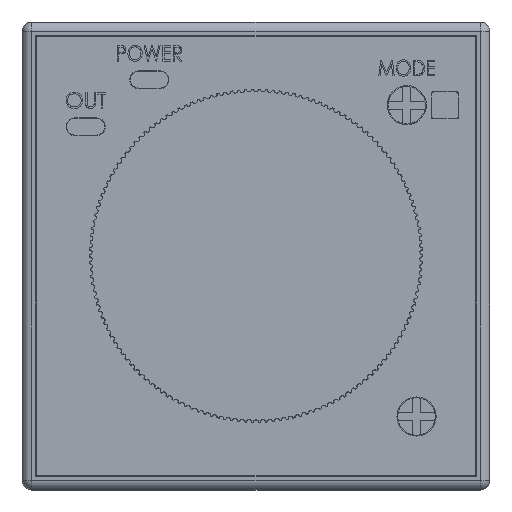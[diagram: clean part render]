
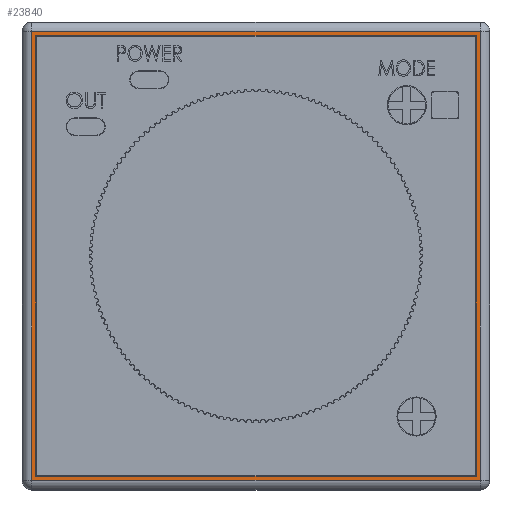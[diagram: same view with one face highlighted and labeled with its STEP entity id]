
A CAD part, top view. The second image highlights one B-rep face of the part: STEP entity #23840.
In plain terms, the highlighted planar face has unit normal (0, 0, 1).
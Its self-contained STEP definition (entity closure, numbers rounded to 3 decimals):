
#1700 = ORIENTED_EDGE ( 'NONE', *, *, #20468, .T. ) ;
#1701 = ORIENTED_EDGE ( 'NONE', *, *, #20469, .T. ) ;
#1702 = ORIENTED_EDGE ( 'NONE', *, *, #20467, .T. ) ;
#1703 = ORIENTED_EDGE ( 'NONE', *, *, #20471, .T. ) ;
#1704 = ORIENTED_EDGE ( 'NONE', *, *, #20472, .F. ) ;
#1705 = ORIENTED_EDGE ( 'NONE', *, *, #20473, .F. ) ;
#1706 = ORIENTED_EDGE ( 'NONE', *, *, #20470, .F. ) ;
#1707 = ORIENTED_EDGE ( 'NONE', *, *, #20474, .F. ) ;
#10503 = VECTOR ( 'NONE', #25992, 1000. ) ;
#10509 = VECTOR ( 'NONE', #25956, 1000. ) ;
#10514 = VECTOR ( 'NONE', #25980, 1000. ) ;
#10518 = VECTOR ( 'NONE', #25986, 1000. ) ;
#10525 = VECTOR ( 'NONE', #25974, 1000. ) ;
#10528 = VECTOR ( 'NONE', #25998, 1000. ) ;
#10529 = VECTOR ( 'NONE', #25962, 1000. ) ;
#10531 = VECTOR ( 'NONE', #25968, 1000. ) ;
#20467 = EDGE_CURVE ( 'NONE', #21536, #21535, #25952, .T. ) ;
#20468 = EDGE_CURVE ( 'NONE', #21537, #21536, #25958, .T. ) ;
#20469 = EDGE_CURVE ( 'NONE', #21535, #21534, #25964, .T. ) ;
#20470 = EDGE_CURVE ( 'NONE', #21531, #21533, #25970, .T. ) ;
#20471 = EDGE_CURVE ( 'NONE', #21534, #21537, #25976, .T. ) ;
#20472 = EDGE_CURVE ( 'NONE', #21533, #21532, #25982, .T. ) ;
#20473 = EDGE_CURVE ( 'NONE', #21530, #21531, #25988, .T. ) ;
#20474 = EDGE_CURVE ( 'NONE', #21532, #21530, #25994, .T. ) ;
#21530 = VERTEX_POINT ( 'NONE', #37093 ) ;
#21531 = VERTEX_POINT ( 'NONE', #37094 ) ;
#21532 = VERTEX_POINT ( 'NONE', #37095 ) ;
#21533 = VERTEX_POINT ( 'NONE', #37096 ) ;
#21534 = VERTEX_POINT ( 'NONE', #37097 ) ;
#21535 = VERTEX_POINT ( 'NONE', #37098 ) ;
#21536 = VERTEX_POINT ( 'NONE', #37099 ) ;
#21537 = VERTEX_POINT ( 'NONE', #37100 ) ;
#23840 = ADVANCED_FACE ( 'NONE', ( #54891, #54894 ), #26717, .F. ) ;
#25952 = LINE ( 'NONE', #25954, #10509 ) ;
#25954 = CARTESIAN_POINT ( 'NONE',  ( 0., -22.9, 5.4 ) ) ;
#25956 = DIRECTION ( 'NONE',  ( 1., 0., 0. ) ) ;
#25958 = LINE ( 'NONE', #25960, #10529 ) ;
#25960 = CARTESIAN_POINT ( 'NONE',  ( -22.9, 0., 5.4 ) ) ;
#25962 = DIRECTION ( 'NONE',  ( 0., -1., 0. ) ) ;
#25964 = LINE ( 'NONE', #25966, #10531 ) ;
#25966 = CARTESIAN_POINT ( 'NONE',  ( 22.9, 0., 5.4 ) ) ;
#25968 = DIRECTION ( 'NONE',  ( 0., 1., 0. ) ) ;
#25970 = LINE ( 'NONE', #25972, #10525 ) ;
#25972 = CARTESIAN_POINT ( 'NONE',  ( -22.5, -22.5, 5.4 ) ) ;
#25974 = DIRECTION ( 'NONE',  ( 1., 0., 0. ) ) ;
#25976 = LINE ( 'NONE', #25978, #10514 ) ;
#25978 = CARTESIAN_POINT ( 'NONE',  ( 0., 22.9, 5.4 ) ) ;
#25980 = DIRECTION ( 'NONE',  ( -1., 0., 0. ) ) ;
#25982 = LINE ( 'NONE', #25984, #10518 ) ;
#25984 = CARTESIAN_POINT ( 'NONE',  ( 22.5, -22.5, 5.4 ) ) ;
#25986 = DIRECTION ( 'NONE',  ( 0., 1., 0. ) ) ;
#25988 = LINE ( 'NONE', #25990, #10503 ) ;
#25990 = CARTESIAN_POINT ( 'NONE',  ( -22.5, 22.5, 5.4 ) ) ;
#25992 = DIRECTION ( 'NONE',  ( 0., -1., 0. ) ) ;
#25994 = LINE ( 'NONE', #25996, #10528 ) ;
#25996 = CARTESIAN_POINT ( 'NONE',  ( 22.5, 22.5, 5.4 ) ) ;
#25998 = DIRECTION ( 'NONE',  ( -1., 0., 0. ) ) ;
#26717 = PLANE ( 'NONE',  #54897 ) ;
#26718 = CARTESIAN_POINT ( 'NONE',  ( 0., 0., 5.4 ) ) ;
#26719 = DIRECTION ( 'NONE',  ( 0., 0., -1. ) ) ;
#26720 = DIRECTION ( 'NONE',  ( -1., 0., 0. ) ) ;
#37093 = CARTESIAN_POINT ( 'NONE',  ( -22.5, 22.5, 5.4 ) ) ;
#37094 = CARTESIAN_POINT ( 'NONE',  ( -22.5, -22.5, 5.4 ) ) ;
#37095 = CARTESIAN_POINT ( 'NONE',  ( 22.5, 22.5, 5.4 ) ) ;
#37096 = CARTESIAN_POINT ( 'NONE',  ( 22.5, -22.5, 5.4 ) ) ;
#37097 = CARTESIAN_POINT ( 'NONE',  ( 22.9, 22.9, 5.4 ) ) ;
#37098 = CARTESIAN_POINT ( 'NONE',  ( 22.9, -22.9, 5.4 ) ) ;
#37099 = CARTESIAN_POINT ( 'NONE',  ( -22.9, -22.9, 5.4 ) ) ;
#37100 = CARTESIAN_POINT ( 'NONE',  ( -22.9, 22.9, 5.4 ) ) ;
#40373 = EDGE_LOOP ( 'NONE', ( #1700, #1702, #1701, #1703 ) ) ;
#40374 = EDGE_LOOP ( 'NONE', ( #1704, #1706, #1705, #1707 ) ) ;
#54891 = FACE_OUTER_BOUND ( 'NONE', #40373, .T. ) ;
#54894 = FACE_BOUND ( 'NONE', #40374, .T. ) ;
#54897 = AXIS2_PLACEMENT_3D ( 'NONE', #26718, #26719, #26720 ) ;
